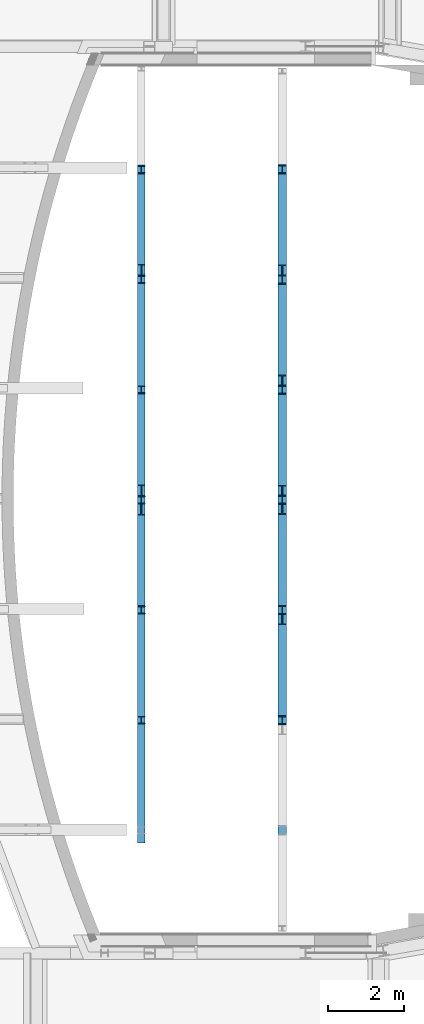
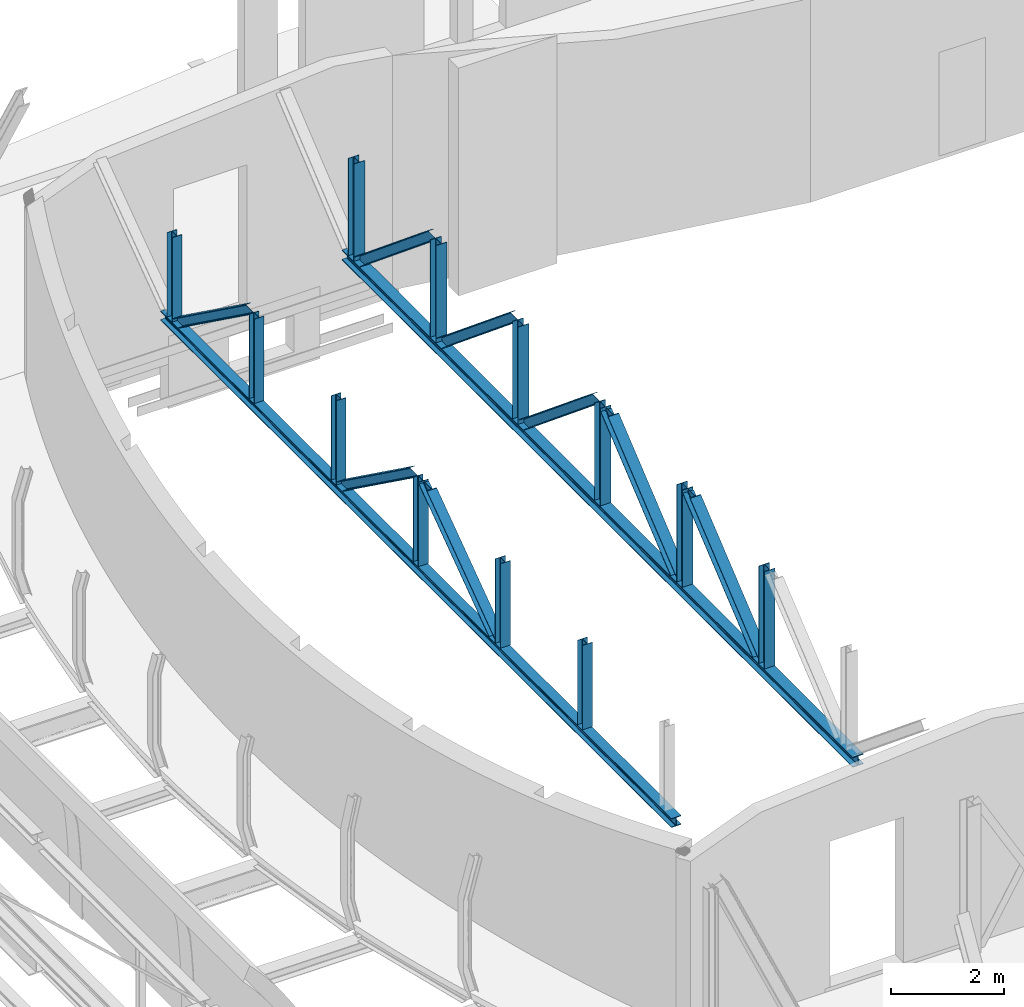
# One storey, part 21 of 38: 22 beams.
"""IFC2X3 building model written with IfcOpenShell, lengths in millimetres."""

from ifc_helpers import new_model, entity, si_unit, converted_unit, derived_unit, direction, frame, frame_2d, origin, origin_2d_with_axis, place, context, subcontext, project, spatial, polyline, circle_curve, parameter, trimmed, segment, composite_curve, i_section, outline, extrude, clip, halfspace, bounded_halfspace, material, type_object, element, save


model = new_model("IFC2X3")

# Units and contexts
model_context = context("Model", 3, precision=0.01, world=origin(), true_north=direction((6.12303176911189e-17, 1.0)))
body_context = subcontext(model_context, "Body", "Model", "MODEL_VIEW")
ifc_project = project(units=[si_unit("LENGTHUNIT", "METRE", prefix="MILLI"), si_unit("AREAUNIT", "SQUARE_METRE", prefix="MILLI"), si_unit("VOLUMEUNIT", "CUBIC_METRE"), converted_unit("PLANEANGLEUNIT", "DEGREE", entity("IfcRatioMeasure", 0.0174532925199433), si_unit("PLANEANGLEUNIT", "RADIAN"), dimensions=[0, 0, 0, 0, 0, 0, 0]), si_unit("MASSUNIT", "GRAM", prefix="KILO"), derived_unit("MASSDENSITYUNIT", [(si_unit("MASSUNIT", "GRAM", prefix="KILO"), 1), (si_unit("LENGTHUNIT", "METRE"), -3)]), derived_unit("MOMENTOFINERTIAUNIT", [(si_unit("LENGTHUNIT", "METRE"), 4)]), si_unit("TIMEUNIT", "SECOND"), si_unit("FREQUENCYUNIT", "HERTZ"), si_unit("THERMODYNAMICTEMPERATUREUNIT", "DEGREE_CELSIUS"), derived_unit("THERMALTRANSMITTANCEUNIT", [(si_unit("MASSUNIT", "GRAM", prefix="KILO"), 1), (si_unit("THERMODYNAMICTEMPERATUREUNIT", "KELVIN"), -1), (si_unit("TIMEUNIT", "SECOND"), -3)]), derived_unit("VOLUMETRICFLOWRATEUNIT", [(si_unit("LENGTHUNIT", "METRE"), 3), (si_unit("TIMEUNIT", "SECOND"), -1)]), si_unit("ELECTRICCURRENTUNIT", "AMPERE"), si_unit("ELECTRICVOLTAGEUNIT", "VOLT"), si_unit("POWERUNIT", "WATT"), si_unit("FORCEUNIT", "NEWTON", prefix="KILO"), si_unit("ILLUMINANCEUNIT", "LUX"), si_unit("LUMINOUSFLUXUNIT", "LUMEN"), si_unit("LUMINOUSINTENSITYUNIT", "CANDELA"), derived_unit("USERDEFINED", [(si_unit("MASSUNIT", "GRAM", prefix="KILO"), -1), (si_unit("LENGTHUNIT", "METRE"), -2), (si_unit("TIMEUNIT", "SECOND"), 3), (si_unit("LUMINOUSFLUXUNIT", "LUMEN"), 1)]), derived_unit("LINEARVELOCITYUNIT", [(si_unit("LENGTHUNIT", "METRE"), 1), (si_unit("TIMEUNIT", "SECOND"), -1)]), si_unit("PRESSUREUNIT", "PASCAL"), derived_unit("USERDEFINED", [(si_unit("LENGTHUNIT", "METRE"), -2), (si_unit("MASSUNIT", "GRAM", prefix="KILO"), 1), (si_unit("TIMEUNIT", "SECOND"), -2)]), derived_unit("LINEARFORCEUNIT", [(si_unit("MASSUNIT", "GRAM", prefix="KILO"), 1), (si_unit("LENGTHUNIT", "METRE"), 1), (si_unit("TIMEUNIT", "SECOND"), -2), (si_unit("LENGTHUNIT", "METRE"), -1)]), derived_unit("PLANARFORCEUNIT", [(si_unit("MASSUNIT", "GRAM", prefix="KILO"), 1), (si_unit("LENGTHUNIT", "METRE"), 1), (si_unit("TIMEUNIT", "SECOND"), -2), (si_unit("LENGTHUNIT", "METRE"), -2)])], contexts=[model_context])

# Site, building, storey
site_placement = place(None, origin())
site = spatial("IfcSite", under=ifc_project, at=site_placement, Name="Theater aan de Parade", CompositionType="ELEMENT")
building_placement = place(site_placement, origin())
building = spatial("IfcBuilding", under=site, at=building_placement, Name="Theater aan de Parade", CompositionType="ELEMENT")
storey_placement = place(building_placement, frame((0.0, 0.0, 12480.0)))
storey = spatial("IfcBuildingStorey", under=building, at=storey_placement, Name="03 derde verdieping", CompositionType="ELEMENT", Elevation=12480.0)

# Beams
ifc_material = material(Name="00_PBT_MAT_staal_S355")
beam_type_1 = type_object("IfcBeamType", Name="28_PBT_SF_staal_H-profiel:S355_HE220B", PredefinedType="NOTDEFINED")
beam_1_placement = place(storey_placement, frame((49335.0, 23690.0, 2690.0), z_axis=(0.0, 0.0, 1.0), x_axis=(0.0, 1.0, 0.0)))
element("IfcBeam", 1, at=beam_1_placement, inside=storey, type_object=beam_type_1, material=ifc_material, Name="28_PBT_SF_staal_H-profiel:S355_HE220B", ObjectType="28_PBT_SF_staal_H-profiel:S355_HE220B", context=body_context, shape_type="SweptSolid", body=[
    extrude(i_section(OverallWidth=220.000000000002, OverallDepth=220.0, WebThickness=9.49999999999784, FlangeThickness=15.9999999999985, FilletRadius=17.9999999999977, at=frame_2d((-1.08002495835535e-12, 8.66862137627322e-12), x_axis=(0.0, 1.0))), frame((-323.335503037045, 0.0, 0.0), z_axis=(1.0, 0.0, 0.0), x_axis=(0.0, 0.0, -1.0)), (0.0, 0.0, 1.0), 18107.2555088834),
])
beam_type_2 = type_object("IfcBeamType", Name="28_PBT_SF_staal_H-profiel:S355_HE220A", PredefinedType="NOTDEFINED")
beam_2_placement = place(storey_placement, frame((49335.0, 26600.0, 2690.0), z_axis=(0.0, -0.636264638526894, 0.771470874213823), x_axis=(0.0, 0.771470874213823, 0.636264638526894)))
element("IfcBeam", 2, at=beam_2_placement, inside=storey, type_object=beam_type_2, material=ifc_material, Name="28_PBT_SF_staal_H-profiel:S355_HE220A", ObjectType="28_PBT_SF_staal_H-profiel:S355_HE220A", context=body_context, shape_type="Clipping", body=[
    clip(clip(clip(clip(extrude(outline(composite_curve([segment(polyline([(94.0, -110.0), (105.0, -110.0)]), True, "CONTINUOUS"), segment(polyline([(105.0, -110.0), (105.0, 110.0)]), True, "CONTINUOUS"), segment(polyline([(105.0, 110.0), (94.0, 110.0)]), True, "CONTINUOUS"), segment(polyline([(94.0, 110.0), (94.0, 21.5000000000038)]), True, "CONTINUOUS"), segment(trimmed(circle_curve(frame_2d((76.0, 21.5000000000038), x_axis=(1.0, 0.0)), 17.999999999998), [parameter(270.0)], [parameter(0.0)], True, "PARAMETER"), False, "CONTINUOUS"), segment(polyline([(76.0, 3.4999999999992), (-76.0, 3.4999999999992)]), True, "CONTINUOUS"), segment(trimmed(circle_curve(frame_2d((-76.0, 21.5000000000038), x_axis=(0.0, -1.0)), 17.9999999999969), [parameter(269.999999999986)], [parameter(0.0)], True, "PARAMETER"), False, "CONTINUOUS"), segment(polyline([(-94.0, 21.5000000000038), (-94.0, 110.0)]), True, "CONTINUOUS"), segment(polyline([(-94.0, 110.0), (-105.0, 110.0)]), True, "CONTINUOUS"), segment(polyline([(-105.0, 110.0), (-105.0, -110.0)]), True, "CONTINUOUS"), segment(polyline([(-105.0, -110.0), (-94.0, -110.0)]), True, "CONTINUOUS"), segment(polyline([(-94.0, -110.0), (-94.0, -21.5000000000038)]), True, "CONTINUOUS"), segment(trimmed(circle_curve(frame_2d((-76.0, -21.4999999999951), x_axis=(-1.0, 0.0)), 17.9999999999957), [parameter(269.999999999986)], [parameter(0.0)], True, "PARAMETER"), False, "CONTINUOUS"), segment(polyline([(-76.0, -3.4999999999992), (76.0, -3.4999999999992)]), True, "CONTINUOUS"), segment(trimmed(circle_curve(frame_2d((76.0, -21.4999999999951), x_axis=(0.0, 1.0)), 17.999999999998), [parameter(270.0)], [parameter(0.0)], True, "PARAMETER"), False, "CONTINUOUS"), segment(polyline([(94.0, -21.4999999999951), (94.0, -110.0)]), True, "CONTINUOUS")], self_intersect=False)), frame((179.148262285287, 0.0, 0.0), z_axis=(1.0, 0.0, 0.0), x_axis=(0.0, 0.0, -1.0)), (0.0, 0.0, 1.0), 3381.90561992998), halfspace(frame((-2427.13918163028, -130.0, 2170.27355149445), z_axis=(-0.636264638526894, 0.0, -0.771470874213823), x_axis=(0.771470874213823, 0.0, -0.636264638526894)), False)), halfspace(frame((161.77823765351, 130.0, -0.303021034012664), z_axis=(-0.771470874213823, 0.0, 0.636264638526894), x_axis=(0.636264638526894, 0.0, 0.771470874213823)), False)), halfspace(frame((2213.89076306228, -130.0, -1692.76695951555), z_axis=(0.771470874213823, 0.0, -0.636264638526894), x_axis=(0.636264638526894, 0.0, 0.771470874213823)), False)), halfspace(frame((-3083.08472777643, 170.0, 5420.37026884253), z_axis=(0.636264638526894, 0.0, 0.771470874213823), x_axis=(0.771470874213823, 0.0, -0.636264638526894)), False)),
])
beam_3_placement = place(storey_placement, frame((49335.0, 35330.0, 5090.0), z_axis=(0.0, 0.63626463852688, 0.771470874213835), x_axis=(0.0, 0.771470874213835, -0.63626463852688)))
element("IfcBeam", 3, at=beam_3_placement, inside=storey, type_object=beam_type_2, material=ifc_material, Name="28_PBT_SF_staal_H-profiel:S355_HE220A", ObjectType="28_PBT_SF_staal_H-profiel:S355_HE220A", context=body_context, shape_type="Clipping", body=[
    clip(clip(clip(clip(extrude(i_section(OverallWidth=220.000000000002, OverallDepth=210.000000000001, WebThickness=6.99999999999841, FlangeThickness=11.0000000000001, FilletRadius=17.9999999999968, at=frame_2d((8.38440428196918e-13, 0.0), x_axis=(0.0, 1.0))), frame((210.961494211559, 0.0, 0.0), z_axis=(1.0, 0.0, 0.0), x_axis=(0.0, 0.0, -1.0)), (0.0, 0.0, 1.0), 3381.90561992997), halfspace(frame((-7800.47358706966, -130.0, -9375.81151665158), z_axis=(0.63626463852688, 0.0, -0.771470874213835), x_axis=(0.771470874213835, 0.0, 0.63626463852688)), False)), halfspace(frame((3610.23713877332, -130.0, -0.303021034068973), z_axis=(0.771470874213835, 0.0, 0.63626463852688), x_axis=(-0.63626463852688, 0.0, 0.771470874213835)), False)), bounded_halfspace(frame((1558.12461336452, 130.0, -1692.76695951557), z_axis=(-0.771470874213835, 0.0, -0.63626463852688), x_axis=(-0.63626463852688, 0.0, 0.771470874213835)), False, frame((210.961494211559, 0.0, 0.0), z_axis=(1.0, 0.0, 0.0), x_axis=(0.0, 0.0, -1.0)), polyline([(76.0, 3.50000000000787), (94.0, 21.5000000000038), (94.0, 110.0), (105.0, 110.0), (105.0, -110.0), (94.0, -110.0), (94.0, -21.4999999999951), (76.0, -3.4999999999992), (59.3316775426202, -3.4999999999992), (59.3316775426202, 3.4999999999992), (76.0, 3.50000000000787)]))), bounded_halfspace(frame((-11116.0053222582, 170.0, -9401.15997978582), z_axis=(-0.63626463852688, 0.0, 0.771470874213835), x_axis=(0.771470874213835, 0.0, 0.63626463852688)), False, frame((210.961494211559, 0.0, 0.0), z_axis=(1.0, 0.0, 0.0), x_axis=(0.0, 0.0, -1.0)), polyline([(-94.0, 21.5000000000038), (-76.0, 3.4999999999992), (59.3316775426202, 3.4999999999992), (59.3316775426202, -3.4999999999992), (-76.0, -3.4999999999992), (-94.0, -21.5000000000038), (-94.0, -110.0), (-105.0, -110.0), (-105.0, 110.0), (-94.0, 110.0), (-94.0, 21.5000000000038)]))),
])
beam_4_placement = place(storey_placement, frame((49335.0, 38240.0, 5090.0), z_axis=(0.0, 0.636264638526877, 0.771470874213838), x_axis=(0.0, 0.771470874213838, -0.636264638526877)))
element("IfcBeam", 4, at=beam_4_placement, inside=storey, type_object=beam_type_2, material=ifc_material, Name="28_PBT_SF_staal_H-profiel:S355_HE220A", ObjectType="28_PBT_SF_staal_H-profiel:S355_HE220A", context=body_context, shape_type="Clipping", body=[
    clip(clip(clip(clip(extrude(i_section(OverallWidth=220.000000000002, OverallDepth=209.999999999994, WebThickness=6.99999999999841, FlangeThickness=10.999999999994, FilletRadius=17.9999999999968, at=frame_2d((3.04822833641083e-12, 0.0), x_axis=(0.0, 1.0))), frame((210.961494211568, 0.0, 0.0), z_axis=(1.0, 0.0, 0.0), x_axis=(0.0, 0.0, -1.0)), (0.0, 0.0, 1.0), 3381.90561992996), halfspace(frame((-10045.453831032, -130.0, -11227.3416147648), z_axis=(0.636264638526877, 0.0, -0.771470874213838), x_axis=(0.771470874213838, 0.0, 0.636264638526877)), False)), halfspace(frame((3610.23713877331, -130.0, -0.303021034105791), z_axis=(0.771470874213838, 0.0, 0.636264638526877), x_axis=(-0.636264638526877, 0.0, 0.771470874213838)), False)), bounded_halfspace(frame((1558.12461336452, 130.0, -1692.76695951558), z_axis=(-0.771470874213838, 0.0, -0.636264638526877), x_axis=(-0.636264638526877, 0.0, 0.771470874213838)), False, frame((210.961494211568, 0.0, 0.0), z_axis=(1.0, 0.0, 0.0), x_axis=(0.0, 0.0, -1.0)), polyline([(76.0, 3.50000000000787), (94.0, 21.5000000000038), (94.0, 110.0), (105.0, 110.0), (105.0, -110.0), (94.0, -110.0), (94.0, -21.4999999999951), (76.0, -3.4999999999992), (59.3316775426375, -3.50000000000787), (59.3316775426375, 3.4999999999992), (76.0, 3.50000000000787)]))), bounded_halfspace(frame((-13360.9855662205, 170.0, -11252.690077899), z_axis=(-0.636264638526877, 0.0, 0.771470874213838), x_axis=(0.771470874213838, 0.0, 0.636264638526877)), False, frame((210.961494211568, 0.0, 0.0), z_axis=(1.0, 0.0, 0.0), x_axis=(0.0, 0.0, -1.0)), polyline([(-94.0, 21.5000000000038), (-76.0, 3.4999999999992), (59.3316775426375, 3.49999999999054), (59.3316775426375, -3.4999999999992), (-76.0, -3.4999999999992), (-94.0, -21.5000000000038), (-94.0, -110.0), (-105.0, -110.0), (-105.0, 110.0), (-94.0, 110.0), (-94.0, 21.5000000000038)]))),
])
beam_5_placement = place(storey_placement, frame((49335.0, 32420.0, 5090.0), z_axis=(0.0, 0.636264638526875, 0.771470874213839), x_axis=(0.0, 0.771470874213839, -0.636264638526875)))
element("IfcBeam", 5, at=beam_5_placement, inside=storey, type_object=beam_type_2, material=ifc_material, Name="28_PBT_SF_staal_H-profiel:S355_HE220A", ObjectType="28_PBT_SF_staal_H-profiel:S355_HE220A", context=body_context, shape_type="Clipping", body=[
    clip(clip(clip(clip(extrude(i_section(OverallWidth=220.000000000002, OverallDepth=210.000000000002, WebThickness=6.99999999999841, FlangeThickness=11.0000000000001, FilletRadius=17.9999999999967, at=frame_2d((3.04822833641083e-12, 0.0), x_axis=(0.0, 1.0))), frame((210.961494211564, 0.0, 0.0), z_axis=(1.0, 0.0, 0.0), x_axis=(0.0, 0.0, -1.0)), (0.0, 0.0, 1.0), 3381.90561992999), halfspace(frame((-5555.49334310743, -130.0, -7524.28141853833), z_axis=(0.636264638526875, 0.0, -0.771470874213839), x_axis=(0.771470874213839, 0.0, 0.636264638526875)), False)), halfspace(frame((3610.23713877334, -130.0, -0.303021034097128), z_axis=(0.771470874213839, 0.0, 0.636264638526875), x_axis=(-0.636264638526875, 0.0, 0.771470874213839)), False)), bounded_halfspace(frame((1558.12461336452, 130.0, -1692.76695951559), z_axis=(-0.771470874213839, 0.0, -0.636264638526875), x_axis=(-0.636264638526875, 0.0, 0.771470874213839)), False, frame((210.961494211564, 0.0, 0.0), z_axis=(1.0, 0.0, 0.0), x_axis=(0.0, 0.0, -1.0)), polyline([(76.0, 3.50000000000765), (94.0, 21.5000000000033), (94.0, 110.0), (105.0, 110.0), (105.0, -110.0), (94.0, -110.0), (94.0, -21.4999999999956), (76.0, -3.49999999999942), (59.3316775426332, -3.50000000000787), (59.3316775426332, 3.4999999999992), (76.0, 3.50000000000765)]))), bounded_halfspace(frame((-8871.02507829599, 170.0, -7549.62988167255), z_axis=(-0.636264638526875, 0.0, 0.771470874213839), x_axis=(0.771470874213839, 0.0, 0.636264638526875)), False, frame((210.961494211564, 0.0, 0.0), z_axis=(1.0, 0.0, 0.0), x_axis=(0.0, 0.0, -1.0)), polyline([(-94.0, 21.5000000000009), (-76.0, 3.49999999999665), (59.3316775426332, 3.49999999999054), (59.3316775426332, -3.4999999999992), (-76.0, -3.50000000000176), (-94.0, -21.5000000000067), (-94.0, -110.0), (-105.0, -110.0), (-105.0, 110.0), (-94.0, 110.0), (-94.0, 21.5000000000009)]))),
])
beam_6_placement = place(storey_placement, frame((49335.0, 29510.0, 2690.0), z_axis=(1.0, 0.0, 0.0), x_axis=(0.0, 0.0, 1.0)))
element("IfcBeam", 6, at=beam_6_placement, inside=storey, type_object=beam_type_2, material=ifc_material, Name="28_PBT_SF_staal_H-profiel:S355_HE220A", ObjectType="28_PBT_SF_staal_H-profiel:S355_HE220A", context=body_context, shape_type="SweptSolid", body=[
    extrude(i_section(OverallWidth=220.000000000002, OverallDepth=210.000000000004, WebThickness=6.99999999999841, FlangeThickness=10.9999999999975, FilletRadius=17.9999999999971, at=frame_2d((0.0, -8.66862137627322e-12), x_axis=(1.0, 0.0))), frame((122.700000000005, 0.0, 0.0), z_axis=(1.0, 0.0, 0.0), x_axis=(0.0, 0.0, -1.0)), (0.0, 0.0, 1.0), 2104.59999999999),
])
for number, where, z_axis, x_axis in (
    (7, (49335.0, 26600.0, 2690.0), (1.0, 0.0, 0.0), (0.0, 0.0, 1.0)),
    (8, (49335.0, 32420.0, 2690.0), (1.0, 0.0, 0.0), (0.0, 0.0, 1.0)),
):
    element("IfcBeam", number, at=place(storey_placement, frame(where, z_axis=z_axis, x_axis=x_axis)), inside=storey, type_object=beam_type_2, material=ifc_material, Name="28_PBT_SF_staal_H-profiel:S355_HE220A", ObjectType="28_PBT_SF_staal_H-profiel:S355_HE220A", context=body_context, shape_type="SweptSolid", body=[
        extrude(i_section(OverallWidth=220.000000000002, OverallDepth=210.000000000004, WebThickness=6.99999999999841, FlangeThickness=10.9999999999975, FilletRadius=17.9999999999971, at=origin_2d_with_axis()), frame((122.700000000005, 0.0, 0.0), z_axis=(1.0, 0.0, 0.0), x_axis=(0.0, 0.0, -1.0)), (0.0, 0.0, 1.0), 2104.59999999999),
    ])
for number, where, z_axis, x_axis in (
    (9, (49335.0, 38240.0, 2690.0), (1.0, 0.0, 0.0), (0.0, 0.0, 1.0)),
    (10, (49335.0, 35330.0, 2690.0), (1.0, 0.0, 0.0), (0.0, 0.0, 1.0)),
):
    element("IfcBeam", number, at=place(storey_placement, frame(where, z_axis=z_axis, x_axis=x_axis)), inside=storey, type_object=beam_type_2, material=ifc_material, Name="28_PBT_SF_staal_H-profiel:S355_HE220A", ObjectType="28_PBT_SF_staal_H-profiel:S355_HE220A", context=body_context, shape_type="SweptSolid", body=[
        extrude(i_section(OverallWidth=220.000000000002, OverallDepth=210.000000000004, WebThickness=6.99999999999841, FlangeThickness=10.9999999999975, FilletRadius=17.9999999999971, at=frame_2d((-8.66862137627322e-12, -8.66862137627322e-12), x_axis=(1.0, 0.0))), frame((122.700000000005, 0.0, 0.0), z_axis=(1.0, 0.0, 0.0), x_axis=(0.0, 0.0, -1.0)), (0.0, 0.0, 1.0), 2104.59999999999),
    ])
beam_7_placement = place(storey_placement, frame((49335.0, 41150.0, 2690.0), z_axis=(1.0, 0.0, 0.0), x_axis=(0.0, 0.0, 1.0)))
element("IfcBeam", 11, at=beam_7_placement, inside=storey, type_object=beam_type_2, material=ifc_material, Name="28_PBT_SF_staal_H-profiel:S355_HE220A", ObjectType="28_PBT_SF_staal_H-profiel:S355_HE220A", context=body_context, shape_type="SweptSolid", body=[
    extrude(i_section(OverallWidth=220.000000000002, OverallDepth=210.000000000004, WebThickness=6.99999999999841, FlangeThickness=10.9999999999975, FilletRadius=17.9999999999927, at=origin_2d_with_axis()), frame((122.700000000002, 0.0, 0.0), z_axis=(1.0, 0.0, 0.0), x_axis=(0.0, 0.0, -1.0)), (0.0, 0.0, 1.0), 2104.6),
])
beam_8_placement = place(storey_placement, frame((49335.0, 29510.0, 2690.0), z_axis=(0.0, -0.636264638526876, 0.771470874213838), x_axis=(0.0, 0.771470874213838, 0.636264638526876)))
element("IfcBeam", 12, at=beam_8_placement, inside=storey, type_object=beam_type_2, material=ifc_material, Name="28_PBT_SF_staal_H-profiel:S355_HE220A", ObjectType="28_PBT_SF_staal_H-profiel:S355_HE220A", context=body_context, shape_type="Clipping", body=[
    clip(clip(clip(clip(extrude(outline(composite_curve([segment(polyline([(94.0, -110.0), (105.0, -110.0)]), True, "CONTINUOUS"), segment(polyline([(105.0, -110.0), (105.0, 110.0)]), True, "CONTINUOUS"), segment(polyline([(105.0, 110.0), (94.0, 110.0)]), True, "CONTINUOUS"), segment(polyline([(94.0, 110.0), (94.0, 21.4999999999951)]), True, "CONTINUOUS"), segment(trimmed(circle_curve(frame_2d((76.0, 21.4999999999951), x_axis=(1.0, 0.0)), 17.9999999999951), [parameter(269.999999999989)], [parameter(0.0)], True, "PARAMETER"), False, "CONTINUOUS"), segment(polyline([(76.0, 3.49999999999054), (-76.0, 3.49999999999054)]), True, "CONTINUOUS"), segment(trimmed(circle_curve(frame_2d((-76.0, 21.4999999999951), x_axis=(0.0, -1.0)), 17.9999999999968), [parameter(269.999999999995)], [parameter(0.0)], True, "PARAMETER"), False, "CONTINUOUS"), segment(polyline([(-94.0, 21.4999999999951), (-94.0, 110.0)]), True, "CONTINUOUS"), segment(polyline([(-94.0, 110.0), (-105.0, 110.0)]), True, "CONTINUOUS"), segment(polyline([(-105.0, 110.0), (-105.0, -110.0)]), True, "CONTINUOUS"), segment(polyline([(-105.0, -110.0), (-94.0, -110.0)]), True, "CONTINUOUS"), segment(polyline([(-94.0, -110.0), (-94.0, -21.5000000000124)]), True, "CONTINUOUS"), segment(trimmed(circle_curve(frame_2d((-76.0, -21.5000000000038), x_axis=(-1.0, 0.0)), 17.9999999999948), [parameter(269.999999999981)], [parameter(0.0)], True, "PARAMETER"), False, "CONTINUOUS"), segment(polyline([(-76.0, -3.50000000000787), (76.0, -3.50000000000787)]), True, "CONTINUOUS"), segment(trimmed(circle_curve(frame_2d((76.0, -21.5000000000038), x_axis=(0.0, 1.0)), 17.9999999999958), [parameter(269.999999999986)], [parameter(0.0)], True, "PARAMETER"), False, "CONTINUOUS"), segment(polyline([(94.0, -21.5000000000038), (94.0, -110.0)]), True, "CONTINUOUS")], self_intersect=False)), frame((179.148262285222, 0.0, 0.0), z_axis=(1.0, 0.0, 0.0), x_axis=(0.0, 0.0, -1.0)), (0.0, 0.0, 1.0), 3381.90561992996), halfspace(frame((-4672.11942559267, -130.0, 4021.80364960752), z_axis=(-0.636264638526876, 0.0, -0.771470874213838), x_axis=(0.771470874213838, 0.0, -0.636264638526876)), False)), halfspace(frame((161.778237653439, 130.0, -0.303021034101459), z_axis=(-0.771470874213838, 0.0, 0.636264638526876), x_axis=(0.636264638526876, 0.0, 0.771470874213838)), False)), halfspace(frame((2213.89076306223, -130.0, -1692.76695951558), z_axis=(0.771470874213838, 0.0, -0.636264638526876), x_axis=(0.636264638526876, 0.0, 0.771470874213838)), False)), halfspace(frame((-5328.0649717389, 170.0, 7271.90036695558), z_axis=(0.636264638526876, 0.0, 0.771470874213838), x_axis=(0.771470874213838, 0.0, -0.636264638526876)), False)),
])
beam_type_3 = type_object("IfcBeamType", Name="28_PBT_SF_staal_H-profiel:S355_HE200B", PredefinedType="NOTDEFINED")
beam_9_placement = place(storey_placement, frame((45610.0, 23690.0, 2680.0), z_axis=(0.0, 0.0, 1.0), x_axis=(0.0, 1.0, 0.0)))
element("IfcBeam", 13, at=beam_9_placement, inside=storey, type_object=beam_type_3, material=ifc_material, Name="28_PBT_SF_staal_H-profiel:S355_HE200B", ObjectType="28_PBT_SF_staal_H-profiel:S355_HE200B", context=body_context, shape_type="SweptSolid", body=[
    extrude(i_section(OverallWidth=199.999999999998, OverallDepth=200.0, WebThickness=8.99999999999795, FlangeThickness=14.9999999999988, FilletRadius=17.9999999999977, at=frame_2d((1.08713038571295e-12, -4.33431068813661e-12), x_axis=(0.0, 1.0))), frame((-332.237347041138, 0.0, 0.0), z_axis=(1.0, 0.0, 0.0), x_axis=(0.0, 0.0, -1.0)), (0.0, 0.0, 1.0), 18112.0507143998),
])
beam_type_4 = type_object("IfcBeamType", Name="28_PBT_SF_staal_H-profiel:S355_HE200A", PredefinedType="NOTDEFINED")
beam_10_placement = place(storey_placement, frame((45610.0, 38240.0, 4780.0), z_axis=(0.0, 0.585185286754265, 0.810899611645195), x_axis=(0.0, 0.810899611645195, -0.585185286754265)))
element("IfcBeam", 14, at=beam_10_placement, inside=storey, type_object=beam_type_4, material=ifc_material, Name="28_PBT_SF_staal_H-profiel:S355_HE200A", ObjectType="28_PBT_SF_staal_H-profiel:S355_HE200A", context=body_context, shape_type="Clipping", body=[
    clip(clip(clip(clip(extrude(i_section(OverallWidth=199.999999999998, OverallDepth=189.999999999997, WebThickness=6.49999999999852, FlangeThickness=10.0000000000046, FilletRadius=17.9999999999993, at=frame_2d((3.90087961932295e-12, 4.33431068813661e-12), x_axis=(0.0, 1.0))), frame((192.734954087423, 0.0, 0.0), z_axis=(1.0, 0.0, 0.0), x_axis=(0.0, 0.0, -1.0)), (0.0, 0.0, 1.0), 3232.39632823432), halfspace(frame((-10925.5516095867, -120.0, -10326.1512662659), z_axis=(0.585185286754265, 0.0, -0.810899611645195), x_axis=(0.810899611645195, 0.0, 0.585185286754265)), False)), halfspace(frame((1267.89588144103, 120.0, -1560.42248247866), z_axis=(-0.810899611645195, 0.0, -0.585185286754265), x_axis=(-0.585185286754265, 0.0, 0.810899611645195)), False)), halfspace(frame((3441.10684065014, -120.0, 7.87408602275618), z_axis=(0.810899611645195, 0.0, 0.585185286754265), x_axis=(-0.585185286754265, 0.0, 0.810899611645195)), False)), halfspace(frame((-14064.7452877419, 170.0, -10359.4598933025), z_axis=(-0.585185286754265, 0.0, 0.810899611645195), x_axis=(0.810899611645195, 0.0, 0.585185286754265)), False)),
])
beam_11_placement = place(storey_placement, frame((45610.0, 32420.0, 4780.0), z_axis=(0.0, 0.585185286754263, 0.810899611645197), x_axis=(0.0, 0.810899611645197, -0.585185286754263)))
element("IfcBeam", 15, at=beam_11_placement, inside=storey, type_object=beam_type_4, material=ifc_material, Name="28_PBT_SF_staal_H-profiel:S355_HE200A", ObjectType="28_PBT_SF_staal_H-profiel:S355_HE200A", context=body_context, shape_type="Clipping", body=[
    clip(clip(clip(clip(extrude(i_section(OverallWidth=199.999999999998, OverallDepth=189.999999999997, WebThickness=6.49999999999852, FlangeThickness=10.000000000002, FilletRadius=17.9999999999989, at=frame_2d((-3.90087961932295e-12, -4.33431068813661e-12), x_axis=(0.0, 1.0))), frame((192.734954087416, 0.0, 0.0), z_axis=(1.0, 0.0, 0.0), x_axis=(0.0, 0.0, -1.0)), (0.0, 0.0, 1.0), 3232.39632823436), halfspace(frame((-6206.11586981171, -120.0, -6920.37289735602), z_axis=(0.585185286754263, 0.0, -0.810899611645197), x_axis=(0.810899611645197, 0.0, 0.585185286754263)), False)), halfspace(frame((1267.89588144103, 120.0, -1560.42248247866), z_axis=(-0.810899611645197, 0.0, -0.585185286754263), x_axis=(-0.585185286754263, 0.0, 0.810899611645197)), False)), halfspace(frame((3441.10684065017, -120.0, 7.87408602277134), z_axis=(0.810899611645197, 0.0, 0.585185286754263), x_axis=(-0.585185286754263, 0.0, 0.810899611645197)), False)), halfspace(frame((-9345.30954796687, 170.0, -6953.68152439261), z_axis=(-0.585185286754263, 0.0, 0.810899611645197), x_axis=(0.810899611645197, 0.0, 0.585185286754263)), False)),
])
for number, where, z_axis, x_axis in (
    (16, (45610.0, 29510.0, 2680.0), (1.0, 0.0, 0.0), (0.0, 0.0, 1.0)),
    (17, (45610.0, 26600.0, 2680.0), (1.0, 0.0, 0.0), (0.0, 0.0, 1.0)),
    (18, (45610.0, 32420.0, 2680.0), (1.0, 0.0, 0.0), (0.0, 0.0, 1.0)),
):
    element("IfcBeam", number, at=place(storey_placement, frame(where, z_axis=z_axis, x_axis=x_axis)), inside=storey, type_object=beam_type_4, material=ifc_material, Name="28_PBT_SF_staal_H-profiel:S355_HE200A", ObjectType="28_PBT_SF_staal_H-profiel:S355_HE200A", context=body_context, shape_type="SweptSolid", body=[
        extrude(i_section(OverallWidth=199.999999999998, OverallDepth=190.0, WebThickness=6.49999999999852, FlangeThickness=9.99999999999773, FilletRadius=17.9999999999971, at=frame_2d((4.33431068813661e-12, 0.0), x_axis=(1.0, 0.0))), frame((112.700000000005, 0.0, 0.0), z_axis=(1.0, 0.0, 0.0), x_axis=(0.0, 0.0, -1.0)), (0.0, 0.0, 1.0), 1824.59999999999),
    ])
for number, where, z_axis, x_axis in (
    (19, (45610.0, 38240.0, 2680.0), (1.0, 0.0, 0.0), (0.0, 0.0, 1.0)),
    (20, (45610.0, 35330.0, 2680.0), (1.0, 0.0, 0.0), (0.0, 0.0, 1.0)),
):
    element("IfcBeam", number, at=place(storey_placement, frame(where, z_axis=z_axis, x_axis=x_axis)), inside=storey, type_object=beam_type_4, material=ifc_material, Name="28_PBT_SF_staal_H-profiel:S355_HE200A", ObjectType="28_PBT_SF_staal_H-profiel:S355_HE200A", context=body_context, shape_type="SweptSolid", body=[
        extrude(i_section(OverallWidth=199.999999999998, OverallDepth=190.0, WebThickness=6.49999999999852, FlangeThickness=9.99999999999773, FilletRadius=17.9999999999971, at=frame_2d((4.33431068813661e-12, -4.33431068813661e-12), x_axis=(1.0, 0.0))), frame((112.700000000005, 0.0, 0.0), z_axis=(1.0, 0.0, 0.0), x_axis=(0.0, 0.0, -1.0)), (0.0, 0.0, 1.0), 1824.59999999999),
    ])
beam_12_placement = place(storey_placement, frame((45610.0, 41150.0, 2680.0), z_axis=(1.0, 0.0, 0.0), x_axis=(0.0, 0.0, 1.0)))
element("IfcBeam", 21, at=beam_12_placement, inside=storey, type_object=beam_type_4, material=ifc_material, Name="28_PBT_SF_staal_H-profiel:S355_HE200A", ObjectType="28_PBT_SF_staal_H-profiel:S355_HE200A", context=body_context, shape_type="SweptSolid", body=[
    extrude(i_section(OverallWidth=199.999999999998, OverallDepth=190.0, WebThickness=6.49999999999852, FlangeThickness=9.99999999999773, FilletRadius=17.9999999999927, at=frame_2d((-4.33431068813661e-12, 4.33431068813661e-12), x_axis=(1.0, 0.0))), frame((112.7, 0.0, 0.0), z_axis=(1.0, 0.0, 0.0), x_axis=(0.0, 0.0, -1.0)), (0.0, 0.0, 1.0), 1824.6),
])
beam_13_placement = place(storey_placement, frame((45610.0, 29510.0, 2680.0), z_axis=(0.0, -0.585185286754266, 0.810899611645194), x_axis=(0.0, 0.810899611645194, 0.585185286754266)))
element("IfcBeam", 22, at=beam_13_placement, inside=storey, type_object=beam_type_4, material=ifc_material, Name="28_PBT_SF_staal_H-profiel:S355_HE200A", ObjectType="28_PBT_SF_staal_H-profiel:S355_HE200A", context=body_context, shape_type="Clipping", body=[
    clip(clip(clip(clip(extrude(outline(composite_curve([segment(polyline([(85.0, -100.0), (95.0, -100.0)]), True, "CONTINUOUS"), segment(polyline([(95.0, -100.0), (95.0, 100.0)]), True, "CONTINUOUS"), segment(polyline([(95.0, 100.0), (85.0, 100.0)]), True, "CONTINUOUS"), segment(polyline([(85.0, 100.0), (85.0, 21.2499999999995)]), True, "CONTINUOUS"), segment(trimmed(circle_curve(frame_2d((67.0, 21.2499999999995), x_axis=(1.0, 0.0)), 17.9999999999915), [parameter(269.999999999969)], [parameter(0.0)], True, "PARAMETER"), False, "CONTINUOUS"), segment(polyline([(67.0, 3.25000000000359), (-67.0, 3.25000000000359)]), True, "CONTINUOUS"), segment(trimmed(circle_curve(frame_2d((-67.0, 21.2499999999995), x_axis=(0.0, -1.0)), 18.0000000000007), [parameter(269.999999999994)], [parameter(0.0)], True, "PARAMETER"), False, "CONTINUOUS"), segment(polyline([(-85.0, 21.2499999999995), (-85.0, 100.0)]), True, "CONTINUOUS"), segment(polyline([(-85.0, 100.0), (-95.0, 100.0)]), True, "CONTINUOUS"), segment(polyline([(-95.0, 100.0), (-95.0, -100.0)]), True, "CONTINUOUS"), segment(polyline([(-95.0, -100.0), (-85.0, -100.0)]), True, "CONTINUOUS"), segment(polyline([(-85.0, -100.0), (-85.0, -21.2499999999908)]), True, "CONTINUOUS"), segment(trimmed(circle_curve(frame_2d((-67.0, -21.2499999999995), x_axis=(-1.0, 0.0)), 17.9999999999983), [parameter(269.999999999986)], [parameter(0.0)], True, "PARAMETER"), False, "CONTINUOUS"), segment(polyline([(-67.0, -3.24999999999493), (67.0, -3.24999999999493)]), True, "CONTINUOUS"), segment(trimmed(circle_curve(frame_2d((67.0, -21.2499999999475), x_axis=(0.0, 1.0)), 17.9999999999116), [parameter(269.999999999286)], [parameter(0.0)], True, "PARAMETER"), False, "CONTINUOUS"), segment(polyline([(85.0, -21.2499999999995), (85.0, -100.0)]), True, "CONTINUOUS")], self_intersect=False)), frame((163.47568974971, 0.0, 0.0), z_axis=(1.0, 0.0, 0.0), x_axis=(0.0, 0.0, -1.0)), (0.0, 0.0, 1.0), 3232.39632823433), halfspace(frame((-4934.84263328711, -120.0, 3709.21043524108), z_axis=(-0.585185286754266, 0.0, -0.810899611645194), x_axis=(0.810899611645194, 0.0, -0.585185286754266)), False)), halfspace(frame((147.500131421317, 120.0, 7.87408602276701), z_axis=(-0.810899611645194, 0.0, 0.585185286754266), x_axis=(0.585185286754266, 0.0, 0.810899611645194)), False)), halfspace(frame((2320.71109063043, -120.0, -1560.42248247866), z_axis=(0.810899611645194, 0.0, -0.585185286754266), x_axis=(0.585185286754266, 0.0, 0.810899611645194)), False)), halfspace(frame((-5955.66557339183, 170.0, 6677.97565643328), z_axis=(0.585185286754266, 0.0, 0.810899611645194), x_axis=(0.810899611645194, 0.0, -0.585185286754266)), False)),
])

save(model, "model.ifc")
